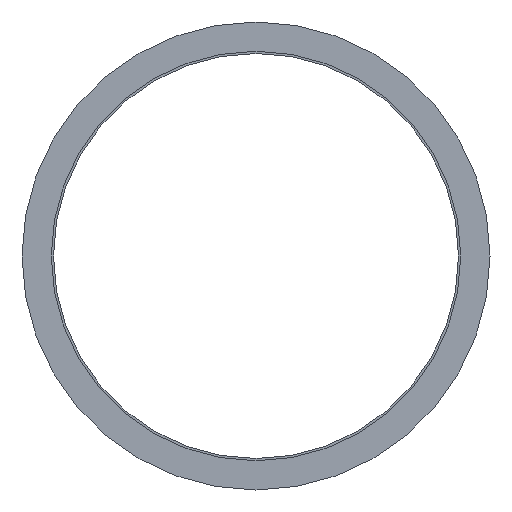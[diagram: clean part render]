
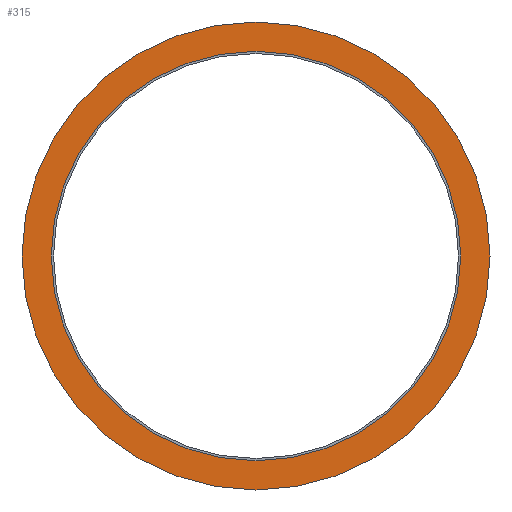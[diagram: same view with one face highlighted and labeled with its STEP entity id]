
A CAD part, left-side view. The second image highlights one B-rep face of the part: STEP entity #315.
In plain terms, the highlighted planar face has unit normal (-1, 0, 0).
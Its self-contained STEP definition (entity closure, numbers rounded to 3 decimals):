
#29 = CARTESIAN_POINT ( 'NONE',  ( -4.876, -0.125, -22.75 ) ) ;
#34 = CIRCLE ( 'NONE', #133, 26. ) ;
#53 = CIRCLE ( 'NONE', #289, 22.75 ) ;
#64 = DIRECTION ( 'NONE',  ( -1., 0., 0. ) ) ;
#74 = DIRECTION ( 'NONE',  ( 0., 0., 1. ) ) ;
#77 = CARTESIAN_POINT ( 'NONE',  ( -4.876, -0.125, 0. ) ) ;
#78 = ORIENTED_EDGE ( 'NONE', *, *, #173, .T. ) ;
#88 = EDGE_CURVE ( 'NONE', #215, #138, #53, .T. ) ;
#89 = CARTESIAN_POINT ( 'NONE',  ( -4.876, -0.125, 22.75 ) ) ;
#98 = DIRECTION ( 'NONE',  ( 1., 0., 0. ) ) ;
#101 = AXIS2_PLACEMENT_3D ( 'NONE', #191, #340, #152 ) ;
#108 = CIRCLE ( 'NONE', #101, 22.75 ) ;
#110 = CIRCLE ( 'NONE', #182, 26. ) ;
#113 = CARTESIAN_POINT ( 'NONE',  ( -4.876, -0.125, 26. ) ) ;
#122 = EDGE_LOOP ( 'NONE', ( #333, #309 ) ) ;
#130 = CARTESIAN_POINT ( 'NONE',  ( -4.876, -0.125, 0. ) ) ;
#133 = AXIS2_PLACEMENT_3D ( 'NONE', #130, #241, #208 ) ;
#138 = VERTEX_POINT ( 'NONE', #29 ) ;
#141 = DIRECTION ( 'NONE',  ( 0., 0., -1. ) ) ;
#152 = DIRECTION ( 'NONE',  ( 0., 0., 1. ) ) ;
#170 = ORIENTED_EDGE ( 'NONE', *, *, #379, .T. ) ;
#173 = EDGE_CURVE ( 'NONE', #264, #207, #34, .T. ) ;
#182 = AXIS2_PLACEMENT_3D ( 'NONE', #198, #64, #361 ) ;
#185 = PLANE ( 'NONE',  #270 ) ;
#191 = CARTESIAN_POINT ( 'NONE',  ( -4.876, -0.125, 0. ) ) ;
#198 = CARTESIAN_POINT ( 'NONE',  ( -4.876, -0.125, 0. ) ) ;
#207 = VERTEX_POINT ( 'NONE', #370 ) ;
#208 = DIRECTION ( 'NONE',  ( 0., 0., 1. ) ) ;
#215 = VERTEX_POINT ( 'NONE', #89 ) ;
#241 = DIRECTION ( 'NONE',  ( -1., 0., 0. ) ) ;
#248 = CARTESIAN_POINT ( 'NONE',  ( -4.876, -0.125, 0. ) ) ;
#264 = VERTEX_POINT ( 'NONE', #113 ) ;
#270 = AXIS2_PLACEMENT_3D ( 'NONE', #77, #98, #141 ) ;
#275 = DIRECTION ( 'NONE',  ( -1., 0., 0. ) ) ;
#281 = EDGE_CURVE ( 'NONE', #138, #215, #108, .T. ) ;
#289 = AXIS2_PLACEMENT_3D ( 'NONE', #248, #275, #74 ) ;
#303 = FACE_BOUND ( 'NONE', #122, .T. ) ;
#309 = ORIENTED_EDGE ( 'NONE', *, *, #88, .F. ) ;
#315 = ADVANCED_FACE ( 'NONE', ( #303, #382 ), #185, .F. ) ;
#333 = ORIENTED_EDGE ( 'NONE', *, *, #281, .F. ) ;
#340 = DIRECTION ( 'NONE',  ( -1., 0., 0. ) ) ;
#351 = EDGE_LOOP ( 'NONE', ( #78, #170 ) ) ;
#361 = DIRECTION ( 'NONE',  ( 0., 0., 1. ) ) ;
#370 = CARTESIAN_POINT ( 'NONE',  ( -4.876, -0.125, -26. ) ) ;
#379 = EDGE_CURVE ( 'NONE', #207, #264, #110, .T. ) ;
#382 = FACE_OUTER_BOUND ( 'NONE', #351, .T. ) ;
